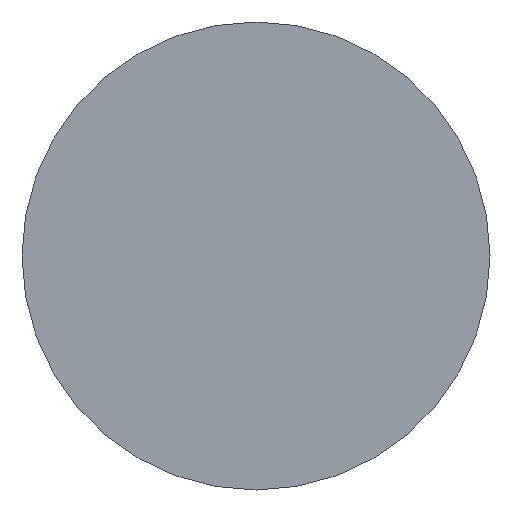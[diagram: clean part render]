
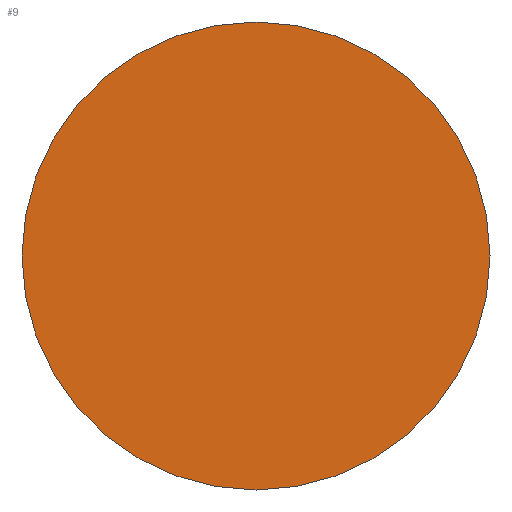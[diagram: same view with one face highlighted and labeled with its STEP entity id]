
A CAD part, left-side view. The second image highlights one B-rep face of the part: STEP entity #9.
In plain terms, the highlighted planar face has unit normal (-1, 0, 0).
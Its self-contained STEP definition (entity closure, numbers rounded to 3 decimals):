
#8 = CARTESIAN_POINT ( 'NONE',  ( 0., 0., 0. ) ) ;
#9 = ADVANCED_FACE ( 'NONE', ( #193 ), #84, .T. ) ;
#31 = AXIS2_PLACEMENT_3D ( 'NONE', #78, #262, #83 ) ;
#32 = VERTEX_POINT ( 'NONE', #156 ) ;
#38 = DIRECTION ( 'NONE',  ( 0., 1., 0. ) ) ;
#50 = ORIENTED_EDGE ( 'NONE', *, *, #108, .F. ) ;
#78 = CARTESIAN_POINT ( 'NONE',  ( 0., 0., 0. ) ) ;
#83 = DIRECTION ( 'NONE',  ( 0., -1., 0. ) ) ;
#84 = PLANE ( 'NONE',  #31 ) ;
#95 = VERTEX_POINT ( 'NONE', #170 ) ;
#105 = CIRCLE ( 'NONE', #165, 8. ) ;
#108 = EDGE_CURVE ( 'NONE', #95, #32, #105, .T. ) ;
#109 = DIRECTION ( 'NONE',  ( 1., 0., 0. ) ) ;
#121 = EDGE_LOOP ( 'NONE', ( #245, #50 ) ) ;
#124 = DIRECTION ( 'NONE',  ( 1., 0., 0. ) ) ;
#129 = CARTESIAN_POINT ( 'NONE',  ( 0., 0., 0. ) ) ;
#156 = CARTESIAN_POINT ( 'NONE',  ( 0., 8., 0. ) ) ;
#165 = AXIS2_PLACEMENT_3D ( 'NONE', #129, #109, #38 ) ;
#170 = CARTESIAN_POINT ( 'NONE',  ( 0., -8., 0. ) ) ;
#193 = FACE_OUTER_BOUND ( 'NONE', #121, .T. ) ;
#208 = AXIS2_PLACEMENT_3D ( 'NONE', #8, #124, #231 ) ;
#231 = DIRECTION ( 'NONE',  ( 0., 1., 0. ) ) ;
#244 = CIRCLE ( 'NONE', #208, 8. ) ;
#245 = ORIENTED_EDGE ( 'NONE', *, *, #248, .F. ) ;
#248 = EDGE_CURVE ( 'NONE', #32, #95, #244, .T. ) ;
#262 = DIRECTION ( 'NONE',  ( -1., 0., 0. ) ) ;
